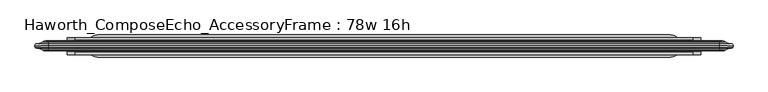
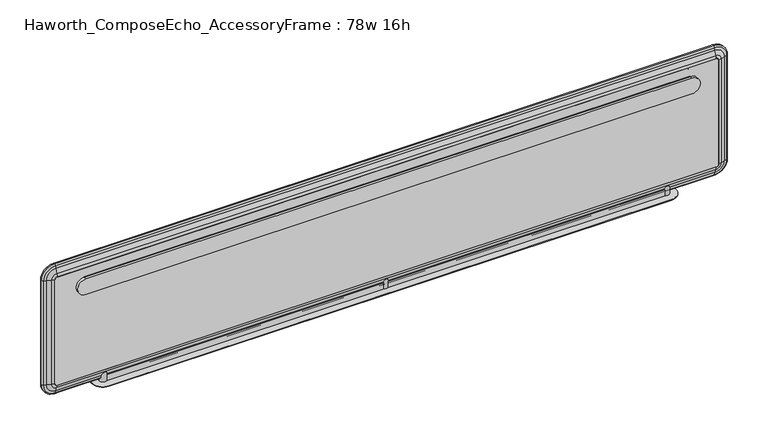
"""IFC4 building model written with IfcOpenShell, lengths in millimetres: furniture geometry, Haworth_ComposeEcho_AccessoryFrame : 78w 16h."""

from ifc_helpers import new_model, si_unit, point, frame, frame_2d, origin, place, context, project, spatial, polyline, circle_curve, ellipse_curve, trimmed, segment, composite_curve, outline, extrude, source, transform, mapped, element, save
from ifc_brep_helpers import plane_surface, cylinder_surface, revolved_surface, advanced_brep


def haworth_composeecho_accessoryframe_78w_16h_9558f845(model_context):
    return source(origin(), model_context, "Body", "SolidModel", [
        extrude(outline(composite_curve([segment(trimmed(circle_curve(frame_2d((1432.9130983, -950.0759879)), 6.3337219), [point((1439.2468202, -950.0759879))], [point((1432.9130983, -956.4097098))], False, "CARTESIAN"), True, "CONTINUOUS"), segment(polyline([(1432.9130983, -956.4097098), (1115.0680007, -956.4097098)]), True, "CONTINUOUS"), segment(trimmed(circle_curve(frame_2d((1115.0680007, -950.0597098)), 6.35), [point((1115.0680007, -956.4097098))], [point((1108.7180007, -950.0597098))], False, "CARTESIAN"), True, "CONTINUOUS"), segment(polyline([(1108.7180007, -950.0597098), (1108.7180007, 954.9402902)]), True, "CONTINUOUS"), segment(trimmed(circle_curve(frame_2d((1115.0680007, 954.9402902)), 6.35), [point((1108.7180007, 954.9402902))], [point((1115.0680007, 961.2902902))], False, "CARTESIAN"), True, "CONTINUOUS"), segment(polyline([(1115.0680007, 961.2902902), (1432.9130983, 961.2902902)]), True, "CONTINUOUS"), segment(trimmed(circle_curve(frame_2d((1432.9130983, 954.9565682)), 6.3337219), [point((1432.9130983, 961.2902902))], [point((1439.2468202, 954.9565682))], False, "CARTESIAN"), True, "CONTINUOUS"), segment(polyline([(1439.2468202, 954.9565682), (1439.2468202, -950.0759879)]), True, "CONTINUOUS")], self_intersect=False)), frame((0.0, -14.1233272, 0.0), z_axis=(0.0, 1.0, 0.0), x_axis=(0.0, 0.0, 1.0)), (0.0, 0.0, 1.0), 28.3652874),
        advanced_brep(
        [(990.1741083, -5.6620988, 1432.9130983), (992.695037, 0.0, 1432.9130983), (954.9563745, 0.0, 1470.6517609), (954.9563745, -5.6620988, 1468.1308321), (982.7453032, -6.4813873, 1432.9130983), (954.9563745, -6.4813873, 1460.7020271), (990.1741083, -5.6620988, 1115.0680007), (992.695037, 0.0, 1115.0680007), (982.7453032, -6.4813873, 1115.0680007), (954.9400964, -5.6620988, 1079.8339888), (954.9400964, 0.0, 1077.31306), (954.9400964, -6.4813873, 1087.2627938), (-950.0597098, -5.6620988, 1079.8339888), (-950.0597098, 0.0, 1077.31306), (-950.0597098, -6.4813873, 1087.2627938), (-985.2937217, -5.6620988, 1115.0680007), (-987.8146505, 0.0, 1115.0680007), (-977.8649167, -6.4813873, 1115.0680007), (-985.2937217, -5.6620988, 1432.9130983), (-987.8146505, 0.0, 1432.9130983), (-977.8649167, -6.4813873, 1432.9130983), (-950.0759879, -5.6620988, 1468.1308321), (-950.0759879, 0.0, 1470.6517609), (-950.0759879, -6.4813873, 1460.7020271), (-956.4097098, 0.0, 1115.0680007), (-950.0597098, 0.0, 1108.7180007), (954.9400964, 0.0, 1108.7180007), (961.2900964, 0.0, 1115.0680007), (961.2900964, 0.0, 1432.9130983), (954.9563745, 0.0, 1439.2468202), (-950.0759879, 0.0, 1439.2468202), (-956.4097098, 0.0, 1432.9130983), (961.2900964, -14.1233272, 1432.9130983), (954.9563745, -14.1233272, 1439.2468202), (969.3685761, -12.0676743, 1432.9130983), (954.9563745, -12.0676743, 1447.3253), (961.2900964, -14.1233272, 1115.0680007), (969.3685761, -12.0676743, 1115.0680007), (954.9400964, -14.1233272, 1108.7180007), (954.9400964, -12.0676743, 1100.6395209), (-950.0597098, -14.1233272, 1108.7180007), (-950.0597098, -12.0676743, 1100.6395209), (-956.4097098, -14.1233272, 1115.0680007), (-964.4881896, -12.0676743, 1115.0680007), (-956.4097098, -14.1233272, 1432.9130983), (-964.4881896, -12.0676743, 1432.9130983), (-950.0759879, -14.1233272, 1439.2468202), (-950.0759879, -12.0676743, 1447.3253)],
        [
            (0, 1, circle_curve(frame((988.7467041, -1.6343332, 1432.9130983), z_axis=(0.0, 0.0, 1.0), x_axis=(-1.0, 0.0, 0.0)), 4.2732164)),
            (1, 2, circle_curve(frame((954.9563745, 0.0, 1432.9130983), z_axis=(0.0, -1.0, 0.0), x_axis=(0.0, 0.0, 1.0)), 37.7386626)),
            (2, 3, circle_curve(frame((954.9563745, -1.6343332, 1466.7034279), z_axis=(1.0, 0.0, 0.0), x_axis=(0.0, 0.0, -1.0)), 4.2732164)),
            (3, 0, circle_curve(frame((954.9563745, -5.6620988, 1432.9130983), z_axis=(0.0, 1.0, 0.0), x_axis=(0.0, 0.0, 1.0)), 35.2177338)),
            (4, 0),
            (3, 5),
            (5, 4, circle_curve(frame((954.9563745, -6.4813873, 1432.9130983), z_axis=(0.0, 1.0, 0.0), x_axis=(0.0, 0.0, 1.0)), 27.7889288)),
            (0, 6),
            (6, 7, circle_curve(frame((988.7467041, -1.6343332, 1115.0680007), z_axis=(0.0, 0.0, 1.0), x_axis=(-1.0, 0.0, 0.0)), 4.2732164)),
            (7, 1),
            (4, 8),
            (8, 6),
            (9, 10, circle_curve(frame((954.9400964, -1.6343332, 1081.261393), z_axis=(1.0, 0.0, 0.0), x_axis=(0.0, 0.0, 1.0)), 4.2732164)),
            (10, 7, circle_curve(frame((954.9400964, 0.0, 1115.0680007), z_axis=(0.0, -1.0, 0.0), x_axis=(1.0, 0.0, 0.0)), 37.7549407)),
            (6, 9, circle_curve(frame((954.9400964, -5.6620988, 1115.0680007), z_axis=(0.0, 1.0, 0.0), x_axis=(1.0, 0.0, 0.0)), 35.2340119)),
            (11, 9),
            (8, 11, circle_curve(frame((954.9400964, -6.4813873, 1115.0680007), z_axis=(0.0, 1.0, 0.0), x_axis=(1.0, 0.0, 0.0)), 27.8052069)),
            (9, 12),
            (12, 13, circle_curve(frame((-950.0597098, -1.6343332, 1081.261393), z_axis=(1.0, 0.0, 0.0), x_axis=(0.0, 0.0, 1.0)), 4.2732164)),
            (13, 10),
            (11, 14),
            (14, 12),
            (15, 16, circle_curve(frame((-983.8663175, -1.6343332, 1115.0680007), z_axis=(0.0, 0.0, -1.0), x_axis=(1.0, 0.0, 0.0)), 4.2732164)),
            (16, 13, circle_curve(frame((-950.0597098, 0.0, 1115.0680007), z_axis=(0.0, -1.0, 0.0), x_axis=(0.0, 0.0, -1.0)), 37.7549407)),
            (12, 15, circle_curve(frame((-950.0597098, -5.6620988, 1115.0680007), z_axis=(0.0, 1.0, 0.0), x_axis=(0.0, 0.0, -1.0)), 35.2340119)),
            (17, 15),
            (14, 17, circle_curve(frame((-950.0597098, -6.4813873, 1115.0680007), z_axis=(0.0, 1.0, 0.0), x_axis=(0.0, 0.0, -1.0)), 27.8052069)),
            (15, 18),
            (18, 19, circle_curve(frame((-983.8663175, -1.6343332, 1432.9130983), z_axis=(0.0, 0.0, -1.0), x_axis=(1.0, 0.0, 0.0)), 4.2732164)),
            (19, 16),
            (17, 20),
            (20, 18),
            (21, 22, circle_curve(frame((-950.0759879, -1.6343332, 1466.7034279), z_axis=(-1.0, 0.0, 0.0), x_axis=(0.0, 0.0, -1.0)), 4.2732164)),
            (22, 19, circle_curve(frame((-950.0759879, 0.0, 1432.9130983), z_axis=(0.0, -1.0, 0.0), x_axis=(-1.0, 0.0, 0.0)), 37.7386626)),
            (18, 21, circle_curve(frame((-950.0759879, -5.6620988, 1432.9130983), z_axis=(0.0, 1.0, 0.0), x_axis=(-1.0, 0.0, 0.0)), 35.2177338)),
            (23, 21),
            (20, 23, circle_curve(frame((-950.0759879, -6.4813873, 1432.9130983), z_axis=(0.0, 1.0, 0.0), x_axis=(-1.0, 0.0, 0.0)), 27.7889288)),
            (21, 3),
            (2, 22),
            (24, 25, circle_curve(frame((-950.0597098, 0.0, 1115.0680007), z_axis=(0.0, -1.0, 0.0), x_axis=(0.0, 0.0, -1.0)), 6.35)),
            (25, 26),
            (26, 27, circle_curve(frame((954.9400964, 0.0, 1115.0680007), z_axis=(0.0, -1.0, 0.0), x_axis=(1.0, 0.0, 0.0)), 6.35)),
            (27, 28),
            (28, 29, circle_curve(frame((954.9563745, 0.0, 1432.9130983), z_axis=(0.0, -1.0, 0.0), x_axis=(0.0, 0.0, 1.0)), 6.3337219)),
            (29, 30),
            (30, 31, circle_curve(frame((-950.0759879, 0.0, 1432.9130983), z_axis=(0.0, -1.0, 0.0), x_axis=(-1.0, 0.0, 0.0)), 6.3337219)),
            (31, 24),
            (23, 5),
            (28, 32),
            (32, 33, circle_curve(frame((954.9563745, -14.1233272, 1432.9130983), z_axis=(0.0, -1.0, 0.0), x_axis=(0.0, 0.0, 1.0)), 6.3337219)),
            (33, 29),
            (32, 34, circle_curve(frame((960.0042192, 7.831597, 1432.9130983), z_axis=(0.0, 0.0, 1.0), x_axis=(-1.0, 0.0, 0.0)), 21.9925482)),
            (34, 35, circle_curve(frame((954.9563745, -12.0676743, 1432.9130983), z_axis=(0.0, -1.0, 0.0), x_axis=(0.0, 0.0, 1.0)), 14.4122017)),
            (35, 33, circle_curve(frame((954.9563745, 7.831597, 1437.960943), z_axis=(1.0, 0.0, 0.0), x_axis=(0.0, 0.0, -1.0)), 21.9925482)),
            (34, 4, circle_curve(frame((1039.1438047, -160.3401291, 1432.9130983), z_axis=(0.0, 0.0, -1.0), x_axis=(-1.0, 0.0, 0.0)), 163.8697757)),
            (5, 35, circle_curve(frame((954.9563745, -160.3401291, 1517.1005285), z_axis=(-1.0, 0.0, 0.0), x_axis=(0.0, 0.0, -1.0)), 163.8697757)),
            (27, 36),
            (36, 32),
            (36, 37, circle_curve(frame((960.0042192, 7.831597, 1115.0680007), z_axis=(0.0, 0.0, 1.0), x_axis=(-1.0, 0.0, 0.0)), 21.9925482)),
            (37, 34),
            (37, 8, circle_curve(frame((1039.1438047, -160.3401291, 1115.0680007), z_axis=(0.0, 0.0, -1.0), x_axis=(-1.0, 0.0, 0.0)), 163.8697757)),
            (26, 38),
            (38, 36, circle_curve(frame((954.9400964, -14.1233272, 1115.0680007), z_axis=(0.0, -1.0, 0.0), x_axis=(1.0, 0.0, 0.0)), 6.35)),
            (38, 39, circle_curve(frame((954.9400964, 7.831597, 1110.0038779), z_axis=(1.0, 0.0, 0.0), x_axis=(0.0, 0.0, 1.0)), 21.9925482)),
            (39, 37, circle_curve(frame((954.9400964, -12.0676743, 1115.0680007), z_axis=(0.0, -1.0, 0.0), x_axis=(1.0, 0.0, 0.0)), 14.4284798)),
            (39, 11, circle_curve(frame((954.9400964, -160.3401291, 1030.8642924), z_axis=(-1.0, 0.0, 0.0), x_axis=(0.0, 0.0, 1.0)), 163.8697757)),
            (25, 40),
            (40, 38),
            (40, 41, circle_curve(frame((-950.0597098, 7.831597, 1110.0038779), z_axis=(1.0, 0.0, 0.0), x_axis=(0.0, 0.0, 1.0)), 21.9925482)),
            (41, 39),
            (41, 14, circle_curve(frame((-950.0597098, -160.3401291, 1030.8642924), z_axis=(-1.0, 0.0, 0.0), x_axis=(0.0, 0.0, 1.0)), 163.8697757)),
            (24, 42),
            (42, 40, circle_curve(frame((-950.0597098, -14.1233272, 1115.0680007), z_axis=(0.0, -1.0, 0.0), x_axis=(0.0, 0.0, -1.0)), 6.35)),
            (42, 43, circle_curve(frame((-955.1238326, 7.831597, 1115.0680007), z_axis=(0.0, 0.0, -1.0), x_axis=(1.0, 0.0, 0.0)), 21.9925482)),
            (43, 41, circle_curve(frame((-950.0597098, -12.0676743, 1115.0680007), z_axis=(0.0, -1.0, 0.0), x_axis=(0.0, 0.0, -1.0)), 14.4284798)),
            (43, 17, circle_curve(frame((-1034.2634181, -160.3401291, 1115.0680007), z_axis=(0.0, 0.0, 1.0), x_axis=(1.0, 0.0, 0.0)), 163.8697757)),
            (31, 44),
            (44, 42),
            (44, 45, circle_curve(frame((-955.1238326, 7.831597, 1432.9130983), z_axis=(0.0, 0.0, -1.0), x_axis=(1.0, 0.0, 0.0)), 21.9925482)),
            (45, 43),
            (45, 20, circle_curve(frame((-1034.2634181, -160.3401291, 1432.9130983), z_axis=(0.0, 0.0, 1.0), x_axis=(1.0, 0.0, 0.0)), 163.8697757)),
            (30, 46),
            (46, 44, circle_curve(frame((-950.0759879, -14.1233272, 1432.9130983), z_axis=(0.0, -1.0, 0.0), x_axis=(-1.0, 0.0, 0.0)), 6.3337219)),
            (46, 47, circle_curve(frame((-950.0759879, 7.831597, 1437.960943), z_axis=(-1.0, 0.0, 0.0), x_axis=(0.0, 0.0, -1.0)), 21.9925482)),
            (47, 45, circle_curve(frame((-950.0759879, -12.0676743, 1432.9130983), z_axis=(0.0, -1.0, 0.0), x_axis=(-1.0, 0.0, 0.0)), 14.4122017)),
            (47, 23, circle_curve(frame((-950.0759879, -160.3401291, 1517.1005285), z_axis=(1.0, 0.0, 0.0), x_axis=(0.0, 0.0, -1.0)), 163.8697757)),
            (33, 46),
            (35, 47),
        ],
        [
            revolved_surface(trimmed(ellipse_curve(frame((954.9563745, -1.6343332, 1466.7034279), z_axis=(1.0, 0.0, 0.0), x_axis=(0.0, 0.0, -1.0)), 4.2732164, 4.2732164), [point((954.9563745, 0.0, 1470.6517609))], [point((954.9563745, -5.6620988, 1468.1308321))], True, "CARTESIAN"), (954.9563745, 0.0, 1432.9130983), (0.0, -1.0, 0.0)),
            revolved_surface(polyline([(954.9563745, -5.6620988, 1468.1308321), (954.9563745, -6.4813873, 1460.7020271)]), (954.9563745, 0.0, 1432.9130983), (0.0, -1.0, 0.0)),
            cylinder_surface(frame((988.7467041, -1.6343332, 1432.9130983), z_axis=(0.0, 0.0, 1.0), x_axis=(-1.0, 0.0, 0.0)), 4.2732164),
            plane_surface(frame((990.1741083, -5.6620988, 1432.9130983), z_axis=(0.10962074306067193, -0.9939734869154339, 0.0), x_axis=(0.0, 0.0, -1.0))),
            revolved_surface(trimmed(ellipse_curve(frame((988.7467041, -1.6343332, 1115.0680007), z_axis=(0.0, 0.0, -1.0), x_axis=(-1.0, 0.0, 0.0)), 4.2732164, 4.2732164), [point((992.695037, 0.0, 1115.0680007))], [point((990.1741083, -5.6620988, 1115.0680007))], True, "CARTESIAN"), (954.9400964, 0.0, 1115.0680007), (0.0, -1.0, 0.0)),
            revolved_surface(polyline([(990.1741083, -5.6620988, 1115.0680007), (982.7453032, -6.4813873, 1115.0680007)]), (954.9400964, 0.0, 1115.0680007), (0.0, -1.0, 0.0)),
            cylinder_surface(frame((954.9400964, -1.6343332, 1081.261393), z_axis=(1.0, 0.0, 0.0), x_axis=(0.0, 0.0, 1.0)), 4.2732164),
            plane_surface(frame((954.9400964, -5.6620988, 1079.8339888), z_axis=(0.0, -0.9939734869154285, -0.109620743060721), x_axis=(-1.0, 0.0, 0.0))),
            revolved_surface(trimmed(ellipse_curve(frame((-950.0597098, -1.6343332, 1081.261393), z_axis=(-1.0, 0.0, 0.0), x_axis=(0.0, 0.0, 1.0)), 4.2732164, 4.2732164), [point((-950.0597098, 0.0, 1077.31306))], [point((-950.0597098, -5.6620988, 1079.8339888))], True, "CARTESIAN"), (-950.0597098, 0.0, 1115.0680007), (0.0, -1.0, 0.0)),
            revolved_surface(polyline([(-950.0597098, -5.6620988, 1079.8339888), (-950.0597098, -6.4813873, 1087.2627938)]), (-950.0597098, 0.0, 1115.0680007), (0.0, -1.0, 0.0)),
            cylinder_surface(frame((-983.8663175, -1.6343332, 1115.0680007), z_axis=(0.0, 0.0, -1.0), x_axis=(1.0, 0.0, 0.0)), 4.2732164),
            plane_surface(frame((-985.2937217, -5.6620988, 1115.0680007), z_axis=(-0.10962074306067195, -0.993973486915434, 0.0), x_axis=(0.0, 0.0, 1.0))),
            revolved_surface(trimmed(ellipse_curve(frame((-983.8663175, -1.6343332, 1432.9130983), z_axis=(0.0, 0.0, 1.0), x_axis=(1.0, 0.0, 0.0)), 4.2732164, 4.2732164), [point((-987.8146505, 0.0, 1432.9130983))], [point((-985.2937217, -5.6620988, 1432.9130983))], True, "CARTESIAN"), (-950.0759879, 0.0, 1432.9130983), (0.0, -1.0, 0.0)),
            revolved_surface(polyline([(-985.2937217, -5.6620988, 1432.9130983), (-977.8649167, -6.4813873, 1432.9130983)]), (-950.0759879, 0.0, 1432.9130983), (0.0, -1.0, 0.0)),
            cylinder_surface(frame((-950.0759879, -1.6343332, 1466.7034279), z_axis=(-1.0, 0.0, 0.0), x_axis=(0.0, 0.0, -1.0)), 4.2732164),
            plane_surface(frame((-950.0759879, 0.0, 1439.2468202), z_axis=(0.0, 1.0, 0.0), x_axis=(1.0, 0.0, 0.0))),
            plane_surface(frame((-950.0759879, -5.6620988, 1468.1308321), z_axis=(0.0, -0.9939734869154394, 0.10962074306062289), x_axis=(1.0, 0.0, 0.0))),
            revolved_surface(polyline([(954.9563745, -14.1233272, 1439.2468202), (954.9563745, 0.0, 1439.2468202)]), (954.9563745, 0.0, 1432.9130983), (0.0, -1.0, 0.0)),
            revolved_surface(trimmed(ellipse_curve(frame((954.9563745, 7.831597, 1437.960943), z_axis=(1.0, 0.0, 0.0), x_axis=(0.0, 0.0, -1.0)), 21.9925482, 21.9925482), [point((954.9563745, -12.0676743, 1447.3253))], [point((954.9563745, -14.1233272, 1439.2468202))], True, "CARTESIAN"), (954.9563745, 0.0, 1432.9130983), (0.0, -1.0, 0.0)),
            revolved_surface(trimmed(ellipse_curve(frame((954.9563745, -160.3401291, 1517.1005285), z_axis=(-1.0, 0.0, 0.0), x_axis=(0.0, 0.0, -1.0)), 163.8697757, 163.8697757), [point((954.9563745, -6.4813873, 1460.7020271))], [point((954.9563745, -12.0676743, 1447.3253))], True, "CARTESIAN"), (954.9563745, 0.0, 1432.9130983), (0.0, -1.0, 0.0)),
            plane_surface(frame((961.2900964, -14.1233272, 1432.9130983), z_axis=(-1.0, 0.0, 0.0), x_axis=(0.0, 0.0, -1.0))),
            cylinder_surface(frame((960.0042192, 7.831597, 1432.9130983), z_axis=(0.0, 0.0, 1.0), x_axis=(-1.0, 0.0, 0.0)), 21.9925482),
            revolved_surface(polyline([(875.2740289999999, -160.3401291, 1115.0680007), (875.2740289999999, -160.3401291, 1432.9130983)]), (1039.1438047, -160.3401291, 1432.9130983), (0.0, 0.0, -1.0)),
            revolved_surface(polyline([(961.2900964, -14.1233272, 1115.0680007), (961.2900964, 0.0, 1115.0680007)]), (954.9400964, 0.0, 1115.0680007), (0.0, -1.0, 0.0)),
            revolved_surface(trimmed(ellipse_curve(frame((960.0042192, 7.831597, 1115.0680007), z_axis=(0.0, 0.0, -1.0), x_axis=(-1.0, 0.0, 0.0)), 21.9925482, 21.9925482), [point((969.3685761, -12.0676743, 1115.0680007))], [point((961.2900964, -14.1233272, 1115.0680007))], True, "CARTESIAN"), (954.9400964, 0.0, 1115.0680007), (0.0, -1.0, 0.0)),
            revolved_surface(trimmed(ellipse_curve(frame((1039.1438047, -160.3401291, 1115.0680007), z_axis=(0.0, 0.0, 1.0), x_axis=(-1.0, 0.0, 0.0)), 163.8697757, 163.8697757), [point((982.7453032, -6.4813873, 1115.0680007))], [point((969.3685761, -12.0676743, 1115.0680007))], True, "CARTESIAN"), (954.9400964, 0.0, 1115.0680007), (0.0, -1.0, 0.0)),
            plane_surface(frame((954.9400964, -14.1233272, 1108.7180007), z_axis=(0.0, 0.0, 1.0), x_axis=(-1.0, 0.0, 0.0))),
            cylinder_surface(frame((954.9400964, 7.831597, 1110.0038779), z_axis=(1.0, 0.0, 0.0), x_axis=(0.0, 0.0, 1.0)), 21.9925482),
            revolved_surface(polyline([(-950.0597098, -160.3401291, 1194.7340681), (954.9400964, -160.3401291, 1194.7340681)]), (954.9400964, -160.3401291, 1030.8642924), (-1.0, 0.0, 0.0)),
            revolved_surface(polyline([(-950.0597098, -14.1233272, 1108.7180007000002), (-950.0597098, 0.0, 1108.7180007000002)]), (-950.0597098, 0.0, 1115.0680007), (0.0, -1.0, 0.0)),
            revolved_surface(trimmed(ellipse_curve(frame((-950.0597098, 7.831597, 1110.0038779), z_axis=(-1.0, 0.0, 0.0), x_axis=(0.0, 0.0, 1.0)), 21.9925482, 21.9925482), [point((-950.0597098, -12.0676743, 1100.6395209))], [point((-950.0597098, -14.1233272, 1108.7180007))], True, "CARTESIAN"), (-950.0597098, 0.0, 1115.0680007), (0.0, -1.0, 0.0)),
            revolved_surface(trimmed(ellipse_curve(frame((-950.0597098, -160.3401291, 1030.8642924), z_axis=(1.0, 0.0, 0.0), x_axis=(0.0, 0.0, 1.0)), 163.8697757, 163.8697757), [point((-950.0597098, -6.4813873, 1087.2627938))], [point((-950.0597098, -12.0676743, 1100.6395209))], True, "CARTESIAN"), (-950.0597098, 0.0, 1115.0680007), (0.0, -1.0, 0.0)),
            plane_surface(frame((-956.4097098, -14.1233272, 1115.0680007), z_axis=(1.0, 0.0, 0.0), x_axis=(0.0, 0.0, 1.0))),
            cylinder_surface(frame((-955.1238326, 7.831597, 1115.0680007), z_axis=(0.0, 0.0, -1.0), x_axis=(1.0, 0.0, 0.0)), 21.9925482),
            revolved_surface(polyline([(-870.3936424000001, -160.3401291, 1432.9130983), (-870.3936424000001, -160.3401291, 1115.0680007)]), (-1034.2634181, -160.3401291, 1115.0680007), (0.0, 0.0, 1.0)),
            revolved_surface(polyline([(-956.4097098, -14.1233272, 1432.9130983), (-956.4097098, 0.0, 1432.9130983)]), (-950.0759879, 0.0, 1432.9130983), (0.0, -1.0, 0.0)),
            revolved_surface(trimmed(ellipse_curve(frame((-955.1238326, 7.831597, 1432.9130983), z_axis=(0.0, 0.0, 1.0), x_axis=(1.0, 0.0, 0.0)), 21.9925482, 21.9925482), [point((-964.4881896, -12.0676743, 1432.9130983))], [point((-956.4097098, -14.1233272, 1432.9130983))], True, "CARTESIAN"), (-950.0759879, 0.0, 1432.9130983), (0.0, -1.0, 0.0)),
            revolved_surface(trimmed(ellipse_curve(frame((-1034.2634181, -160.3401291, 1432.9130983), z_axis=(0.0, 0.0, -1.0), x_axis=(1.0, 0.0, 0.0)), 163.8697757, 163.8697757), [point((-977.8649167, -6.4813873, 1432.9130983))], [point((-964.4881896, -12.0676743, 1432.9130983))], True, "CARTESIAN"), (-950.0759879, 0.0, 1432.9130983), (0.0, -1.0, 0.0)),
            plane_surface(frame((-950.0759879, -14.1233272, 1439.2468202), z_axis=(0.0, 0.0, -1.0), x_axis=(1.0, 0.0, 0.0))),
            cylinder_surface(frame((-950.0759879, 7.831597, 1437.960943), z_axis=(-1.0, 0.0, 0.0), x_axis=(0.0, 0.0, -1.0)), 21.9925482),
            revolved_surface(polyline([(954.9563745, -160.3401291, 1353.2307528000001), (-950.0759879, -160.3401291, 1353.2307528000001)]), (-950.0759879, -160.3401291, 1517.1005285), (1.0, 0.0, 0.0)),
        ],
        [
            (0, [[1, 2, 3, 4]]),
            (1, [[5, -4, 6, 7]]),
            (2, [[8, 9, 10, -1]]),
            (3, [[11, 12, -8, -5]]),
            (4, [[13, 14, -9, 15]]),
            (5, [[16, -15, -12, 17]]),
            (6, [[18, 19, 20, -13]]),
            (7, [[21, 22, -18, -16]]),
            (8, [[23, 24, -19, 25]]),
            (9, [[26, -25, -22, 27]]),
            (10, [[28, 29, 30, -23]]),
            (11, [[31, 32, -28, -26]]),
            (12, [[33, 34, -29, 35]]),
            (13, [[36, -35, -32, 37]]),
            (14, [[38, -3, 39, -33]]),
            (15, [[-2, -10, -14, -20, -24, -30, -34, -39], [40, 41, 42, 43, 44, 45, 46, 47]]),
            (16, [[48, -6, -38, -36]]),
            (17, [[49, 50, 51, -44]]),
            (18, [[52, 53, 54, -50]]),
            (19, [[55, -7, 56, -53]]),
            (20, [[-43, 57, 58, -49]]),
            (21, [[-58, 59, 60, -52]]),
            (22, [[-60, 61, -11, -55]]),
            (23, [[62, 63, -57, -42]]),
            (24, [[64, 65, -59, -63]]),
            (25, [[66, -17, -61, -65]]),
            (26, [[-41, 67, 68, -62]]),
            (27, [[-68, 69, 70, -64]]),
            (28, [[-70, 71, -21, -66]]),
            (29, [[72, 73, -67, -40]]),
            (30, [[74, 75, -69, -73]]),
            (31, [[76, -27, -71, -75]]),
            (32, [[-47, 77, 78, -72]]),
            (33, [[-78, 79, 80, -74]]),
            (34, [[-80, 81, -31, -76]]),
            (35, [[82, 83, -77, -46]]),
            (36, [[84, 85, -79, -83]]),
            (37, [[86, -37, -81, -85]]),
            (38, [[-45, -51, 87, -82]]),
            (39, [[-87, -54, 88, -84]]),
            (40, [[-88, -56, -48, -86]]),
        ],
    ),
        advanced_brep(
        [(992.695037, 0.0, 1432.9130983), (990.1741083, 5.6620988, 1432.9130983), (954.9563745, 5.6620988, 1468.1308321), (954.9563745, 0.0, 1470.6517609), (982.7453032, 6.4813873, 1432.9130983), (954.9563745, 6.4813873, 1460.7020271), (992.695037, 0.0, 1115.0680007), (990.1741083, 5.6620988, 1115.0680007), (982.7453032, 6.4813873, 1115.0680007), (954.9400964, 0.0, 1077.31306), (954.9400964, 5.6620988, 1079.8339888), (954.9400964, 6.4813873, 1087.2627938), (-950.0597098, 0.0, 1077.31306), (-950.0597098, 5.6620988, 1079.8339888), (-950.0597098, 6.4813873, 1087.2627938), (-987.8146505, 0.0, 1115.0680007), (-985.2937217, 5.6620988, 1115.0680007), (-977.8649167, 6.4813873, 1115.0680007), (-987.8146505, 0.0, 1432.9130983), (-985.2937217, 5.6620988, 1432.9130983), (-977.8649167, 6.4813873, 1432.9130983), (-950.0759879, 0.0, 1470.6517609), (-950.0759879, 5.6620988, 1468.1308321), (-950.0759879, 6.4813873, 1460.7020271), (954.9563745, 0.0, 1439.2468202), (961.2900964, 0.0, 1432.9130983), (961.2900964, 0.0, 1115.0680007), (954.9400964, 0.0, 1108.7180007), (-950.0597098, 0.0, 1108.7180007), (-956.4097098, 0.0, 1115.0680007), (-956.4097098, 0.0, 1432.9130983), (-950.0759879, 0.0, 1439.2468202), (961.2900964, 14.1233272, 1432.9130983), (954.9563745, 14.1233272, 1439.2468202), (969.3685761, 12.0676743, 1432.9130983), (954.9563745, 12.0676743, 1447.3253), (961.2900964, 14.1233272, 1115.0680007), (969.3685761, 12.0676743, 1115.0680007), (954.9400964, 14.1233272, 1108.7180007), (954.9400964, 12.0676743, 1100.6395209), (-950.0597098, 14.1233272, 1108.7180007), (-950.0597098, 12.0676743, 1100.6395209), (-956.4097098, 14.1233272, 1115.0680007), (-964.4881896, 12.0676743, 1115.0680007), (-956.4097098, 14.1233272, 1432.9130983), (-964.4881896, 12.0676743, 1432.9130983), (-950.0759879, 14.1233272, 1439.2468202), (-950.0759879, 12.0676743, 1447.3253)],
        [
            (0, 1, circle_curve(frame((988.7467041, 1.6343332, 1432.9130983), z_axis=(0.0, 0.0, 1.0), x_axis=(1.0, 0.0, 0.0)), 4.2732164)),
            (1, 2, circle_curve(frame((954.9563745, 5.6620988, 1432.9130983), z_axis=(0.0, -1.0, 0.0), x_axis=(0.0, 0.0, 1.0)), 35.2177338)),
            (2, 3, circle_curve(frame((954.9563745, 1.6343332, 1466.7034279), z_axis=(1.0, 0.0, 0.0), x_axis=(0.0, 0.0, 1.0)), 4.2732164)),
            (3, 0, circle_curve(frame((954.9563745, 0.0, 1432.9130983), z_axis=(0.0, 1.0, 0.0), x_axis=(0.0, 0.0, 1.0)), 37.7386626)),
            (1, 4),
            (4, 5, circle_curve(frame((954.9563745, 6.4813873, 1432.9130983), z_axis=(0.0, -1.0, 0.0), x_axis=(0.0, 0.0, 1.0)), 27.7889288)),
            (5, 2),
            (0, 6),
            (6, 7, circle_curve(frame((988.7467041, 1.6343332, 1115.0680007), z_axis=(0.0, 0.0, 1.0), x_axis=(1.0, 0.0, 0.0)), 4.2732164)),
            (7, 1),
            (7, 8),
            (8, 4),
            (9, 10, circle_curve(frame((954.9400964, 1.6343332, 1081.261393), z_axis=(1.0, 0.0, 0.0), x_axis=(0.0, 0.0, -1.0)), 4.2732164)),
            (10, 7, circle_curve(frame((954.9400964, 5.6620988, 1115.0680007), z_axis=(0.0, -1.0, 0.0), x_axis=(1.0, 0.0, 0.0)), 35.2340119)),
            (6, 9, circle_curve(frame((954.9400964, 0.0, 1115.0680007), z_axis=(0.0, 1.0, 0.0), x_axis=(1.0, 0.0, 0.0)), 37.7549407)),
            (10, 11),
            (11, 8, circle_curve(frame((954.9400964, 6.4813873, 1115.0680007), z_axis=(0.0, -1.0, 0.0), x_axis=(1.0, 0.0, 0.0)), 27.8052069)),
            (9, 12),
            (12, 13, circle_curve(frame((-950.0597098, 1.6343332, 1081.261393), z_axis=(1.0, 0.0, 0.0), x_axis=(0.0, 0.0, -1.0)), 4.2732164)),
            (13, 10),
            (13, 14),
            (14, 11),
            (15, 16, circle_curve(frame((-983.8663175, 1.6343332, 1115.0680007), z_axis=(0.0, 0.0, -1.0), x_axis=(-1.0, 0.0, 0.0)), 4.2732164)),
            (16, 13, circle_curve(frame((-950.0597098, 5.6620988, 1115.0680007), z_axis=(0.0, -1.0, 0.0), x_axis=(0.0, 0.0, -1.0)), 35.2340119)),
            (12, 15, circle_curve(frame((-950.0597098, 0.0, 1115.0680007), z_axis=(0.0, 1.0, 0.0), x_axis=(0.0, 0.0, -1.0)), 37.7549407)),
            (16, 17),
            (17, 14, circle_curve(frame((-950.0597098, 6.4813873, 1115.0680007), z_axis=(0.0, -1.0, 0.0), x_axis=(0.0, 0.0, -1.0)), 27.8052069)),
            (15, 18),
            (18, 19, circle_curve(frame((-983.8663175, 1.6343332, 1432.9130983), z_axis=(0.0, 0.0, -1.0), x_axis=(-1.0, 0.0, 0.0)), 4.2732164)),
            (19, 16),
            (19, 20),
            (20, 17),
            (21, 22, circle_curve(frame((-950.0759879, 1.6343332, 1466.7034279), z_axis=(-1.0, 0.0, 0.0), x_axis=(0.0, 0.0, 1.0)), 4.2732164)),
            (22, 19, circle_curve(frame((-950.0759879, 5.6620988, 1432.9130983), z_axis=(0.0, -1.0, 0.0), x_axis=(-1.0, 0.0, 0.0)), 35.2177338)),
            (18, 21, circle_curve(frame((-950.0759879, 0.0, 1432.9130983), z_axis=(0.0, 1.0, 0.0), x_axis=(-1.0, 0.0, 0.0)), 37.7386626)),
            (22, 23),
            (23, 20, circle_curve(frame((-950.0759879, 6.4813873, 1432.9130983), z_axis=(0.0, -1.0, 0.0), x_axis=(-1.0, 0.0, 0.0)), 27.7889288)),
            (21, 3),
            (2, 22),
            (24, 25, circle_curve(frame((954.9563745, 0.0, 1432.9130983), z_axis=(0.0, 1.0, 0.0), x_axis=(0.0, 0.0, 1.0)), 6.3337219)),
            (25, 26),
            (26, 27, circle_curve(frame((954.9400964, 0.0, 1115.0680007), z_axis=(0.0, 1.0, 0.0), x_axis=(1.0, 0.0, 0.0)), 6.35)),
            (27, 28),
            (28, 29, circle_curve(frame((-950.0597098, 0.0, 1115.0680007), z_axis=(0.0, 1.0, 0.0), x_axis=(0.0, 0.0, -1.0)), 6.35)),
            (29, 30),
            (30, 31, circle_curve(frame((-950.0759879, 0.0, 1432.9130983), z_axis=(0.0, 1.0, 0.0), x_axis=(-1.0, 0.0, 0.0)), 6.3337219)),
            (31, 24),
            (5, 23),
            (32, 25),
            (24, 33),
            (33, 32, circle_curve(frame((954.9563745, 14.1233272, 1432.9130983), z_axis=(0.0, 1.0, 0.0), x_axis=(0.0, 0.0, 1.0)), 6.3337219)),
            (34, 32, circle_curve(frame((960.0042192, -7.831597, 1432.9130983), z_axis=(0.0, 0.0, 1.0), x_axis=(1.0, 0.0, 0.0)), 21.9925482)),
            (33, 35, circle_curve(frame((954.9563745, -7.831597, 1437.960943), z_axis=(1.0, 0.0, 0.0), x_axis=(0.0, 0.0, 1.0)), 21.9925482)),
            (35, 34, circle_curve(frame((954.9563745, 12.0676743, 1432.9130983), z_axis=(0.0, 1.0, 0.0), x_axis=(0.0, 0.0, 1.0)), 14.4122017)),
            (4, 34, circle_curve(frame((1039.1438047, 160.3401291, 1432.9130983), z_axis=(0.0, 0.0, -1.0), x_axis=(1.0, 0.0, 0.0)), 163.8697757)),
            (35, 5, circle_curve(frame((954.9563745, 160.3401291, 1517.1005285), z_axis=(-1.0, 0.0, 0.0), x_axis=(0.0, 0.0, 1.0)), 163.8697757)),
            (32, 36),
            (36, 26),
            (34, 37),
            (37, 36, circle_curve(frame((960.0042192, -7.831597, 1115.0680007), z_axis=(0.0, 0.0, 1.0), x_axis=(1.0, 0.0, 0.0)), 21.9925482)),
            (8, 37, circle_curve(frame((1039.1438047, 160.3401291, 1115.0680007), z_axis=(0.0, 0.0, -1.0), x_axis=(1.0, 0.0, 0.0)), 163.8697757)),
            (38, 27),
            (36, 38, circle_curve(frame((954.9400964, 14.1233272, 1115.0680007), z_axis=(0.0, 1.0, 0.0), x_axis=(1.0, 0.0, 0.0)), 6.35)),
            (39, 38, circle_curve(frame((954.9400964, -7.831597, 1110.0038779), z_axis=(1.0, 0.0, 0.0), x_axis=(0.0, 0.0, -1.0)), 21.9925482)),
            (37, 39, circle_curve(frame((954.9400964, 12.0676743, 1115.0680007), z_axis=(0.0, 1.0, 0.0), x_axis=(1.0, 0.0, 0.0)), 14.4284798)),
            (11, 39, circle_curve(frame((954.9400964, 160.3401291, 1030.8642924), z_axis=(-1.0, 0.0, 0.0), x_axis=(0.0, 0.0, -1.0)), 163.8697757)),
            (38, 40),
            (40, 28),
            (39, 41),
            (41, 40, circle_curve(frame((-950.0597098, -7.831597, 1110.0038779), z_axis=(1.0, 0.0, 0.0), x_axis=(0.0, 0.0, -1.0)), 21.9925482)),
            (14, 41, circle_curve(frame((-950.0597098, 160.3401291, 1030.8642924), z_axis=(-1.0, 0.0, 0.0), x_axis=(0.0, 0.0, -1.0)), 163.8697757)),
            (42, 29),
            (40, 42, circle_curve(frame((-950.0597098, 14.1233272, 1115.0680007), z_axis=(0.0, 1.0, 0.0), x_axis=(0.0, 0.0, -1.0)), 6.35)),
            (43, 42, circle_curve(frame((-955.1238326, -7.831597, 1115.0680007), z_axis=(0.0, 0.0, -1.0), x_axis=(-1.0, 0.0, 0.0)), 21.9925482)),
            (41, 43, circle_curve(frame((-950.0597098, 12.0676743, 1115.0680007), z_axis=(0.0, 1.0, 0.0), x_axis=(0.0, 0.0, -1.0)), 14.4284798)),
            (17, 43, circle_curve(frame((-1034.2634181, 160.3401291, 1115.0680007), z_axis=(0.0, 0.0, 1.0), x_axis=(-1.0, 0.0, 0.0)), 163.8697757)),
            (42, 44),
            (44, 30),
            (43, 45),
            (45, 44, circle_curve(frame((-955.1238326, -7.831597, 1432.9130983), z_axis=(0.0, 0.0, -1.0), x_axis=(-1.0, 0.0, 0.0)), 21.9925482)),
            (20, 45, circle_curve(frame((-1034.2634181, 160.3401291, 1432.9130983), z_axis=(0.0, 0.0, 1.0), x_axis=(-1.0, 0.0, 0.0)), 163.8697757)),
            (46, 31),
            (44, 46, circle_curve(frame((-950.0759879, 14.1233272, 1432.9130983), z_axis=(0.0, 1.0, 0.0), x_axis=(-1.0, 0.0, 0.0)), 6.3337219)),
            (47, 46, circle_curve(frame((-950.0759879, -7.831597, 1437.960943), z_axis=(-1.0, 0.0, 0.0), x_axis=(0.0, 0.0, 1.0)), 21.9925482)),
            (45, 47, circle_curve(frame((-950.0759879, 12.0676743, 1432.9130983), z_axis=(0.0, 1.0, 0.0), x_axis=(-1.0, 0.0, 0.0)), 14.4122017)),
            (23, 47, circle_curve(frame((-950.0759879, 160.3401291, 1517.1005285), z_axis=(1.0, 0.0, 0.0), x_axis=(0.0, 0.0, 1.0)), 163.8697757)),
            (46, 33),
            (47, 35),
        ],
        [
            revolved_surface(trimmed(ellipse_curve(frame((954.9563745, 1.6343332, 1466.7034279), z_axis=(1.0, 0.0, 0.0), x_axis=(0.0, 0.0, 1.0)), 4.2732164, 4.2732164), [point((954.9563745, 5.6620988, 1468.1308321))], [point((954.9563745, 0.0, 1470.6517609))], True, "CARTESIAN"), (954.9563745, 0.0, 1432.9130983), (0.0, -1.0, 0.0)),
            revolved_surface(polyline([(954.9563745, 6.4813873, 1460.7020271), (954.9563745, 5.6620988, 1468.1308321)]), (954.9563745, 0.0, 1432.9130983), (0.0, -1.0, 0.0)),
            cylinder_surface(frame((988.7467041, 1.6343332, 1432.9130983), z_axis=(0.0, 0.0, 1.0), x_axis=(1.0, 0.0, 0.0)), 4.2732164),
            plane_surface(frame((982.7453032, 6.4813873, 1432.9130983), z_axis=(0.10962074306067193, 0.9939734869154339, 0.0), x_axis=(0.0, 0.0, -1.0))),
            revolved_surface(trimmed(ellipse_curve(frame((988.7467041, 1.6343332, 1115.0680007), z_axis=(0.0, 0.0, -1.0), x_axis=(1.0, 0.0, 0.0)), 4.2732164, 4.2732164), [point((990.1741083, 5.6620988, 1115.0680007))], [point((992.695037, 0.0, 1115.0680007))], True, "CARTESIAN"), (954.9400964, 0.0, 1115.0680007), (0.0, -1.0, 0.0)),
            revolved_surface(polyline([(982.7453032, 6.4813873, 1115.0680007), (990.1741083, 5.6620988, 1115.0680007)]), (954.9400964, 0.0, 1115.0680007), (0.0, -1.0, 0.0)),
            cylinder_surface(frame((954.9400964, 1.6343332, 1081.261393), z_axis=(1.0, 0.0, 0.0), x_axis=(0.0, 0.0, -1.0)), 4.2732164),
            plane_surface(frame((954.9400964, 6.4813873, 1087.2627938), z_axis=(0.0, 0.9939734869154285, -0.109620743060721), x_axis=(-1.0, 0.0, 0.0))),
            revolved_surface(trimmed(ellipse_curve(frame((-950.0597098, 1.6343332, 1081.261393), z_axis=(-1.0, 0.0, 0.0), x_axis=(0.0, 0.0, -1.0)), 4.2732164, 4.2732164), [point((-950.0597098, 5.6620988, 1079.8339888))], [point((-950.0597098, 0.0, 1077.31306))], True, "CARTESIAN"), (-950.0597098, 0.0, 1115.0680007), (0.0, -1.0, 0.0)),
            revolved_surface(polyline([(-950.0597098, 6.4813873, 1087.2627938), (-950.0597098, 5.6620988, 1079.8339888)]), (-950.0597098, 0.0, 1115.0680007), (0.0, -1.0, 0.0)),
            cylinder_surface(frame((-983.8663175, 1.6343332, 1115.0680007), z_axis=(0.0, 0.0, -1.0), x_axis=(-1.0, 0.0, 0.0)), 4.2732164),
            plane_surface(frame((-977.8649167, 6.4813873, 1115.0680007), z_axis=(-0.10962074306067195, 0.993973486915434, 0.0), x_axis=(0.0, 0.0, 1.0))),
            revolved_surface(trimmed(ellipse_curve(frame((-983.8663175, 1.6343332, 1432.9130983), z_axis=(0.0, 0.0, 1.0), x_axis=(-1.0, 0.0, 0.0)), 4.2732164, 4.2732164), [point((-985.2937217, 5.6620988, 1432.9130983))], [point((-987.8146505, 0.0, 1432.9130983))], True, "CARTESIAN"), (-950.0759879, 0.0, 1432.9130983), (0.0, -1.0, 0.0)),
            revolved_surface(polyline([(-977.8649167, 6.4813873, 1432.9130983), (-985.2937217, 5.6620988, 1432.9130983)]), (-950.0759879, 0.0, 1432.9130983), (0.0, -1.0, 0.0)),
            cylinder_surface(frame((-950.0759879, 1.6343332, 1466.7034279), z_axis=(-1.0, 0.0, 0.0), x_axis=(0.0, 0.0, 1.0)), 4.2732164),
            plane_surface(frame((-950.0759879, 0.0, 1470.6517609), z_axis=(0.0, -1.0, 0.0), x_axis=(1.0, 0.0, 0.0))),
            plane_surface(frame((-950.0759879, 6.4813873, 1460.7020271), z_axis=(0.0, 0.9939734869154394, 0.10962074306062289), x_axis=(1.0, 0.0, 0.0))),
            revolved_surface(polyline([(954.9563745, 0.0, 1439.2468202), (954.9563745, 14.1233272, 1439.2468202)]), (954.9563745, 0.0, 1432.9130983), (0.0, -1.0, 0.0)),
            revolved_surface(trimmed(ellipse_curve(frame((954.9563745, -7.831597, 1437.960943), z_axis=(1.0, 0.0, 0.0), x_axis=(0.0, 0.0, 1.0)), 21.9925482, 21.9925482), [point((954.9563745, 14.1233272, 1439.2468202))], [point((954.9563745, 12.0676743, 1447.3253))], True, "CARTESIAN"), (954.9563745, 0.0, 1432.9130983), (0.0, -1.0, 0.0)),
            revolved_surface(trimmed(ellipse_curve(frame((954.9563745, 160.3401291, 1517.1005285), z_axis=(-1.0, 0.0, 0.0), x_axis=(0.0, 0.0, 1.0)), 163.8697757, 163.8697757), [point((954.9563745, 12.0676743, 1447.3253))], [point((954.9563745, 6.4813873, 1460.7020271))], True, "CARTESIAN"), (954.9563745, 0.0, 1432.9130983), (0.0, -1.0, 0.0)),
            plane_surface(frame((961.2900964, 0.0, 1432.9130983), z_axis=(-1.0, 0.0, 0.0), x_axis=(0.0, 0.0, -1.0))),
            cylinder_surface(frame((960.0042192, -7.831597, 1432.9130983), z_axis=(0.0, 0.0, 1.0), x_axis=(1.0, 0.0, 0.0)), 21.9925482),
            revolved_surface(polyline([(1203.0135804, 160.3401291, 1115.0680007), (1203.0135804, 160.3401291, 1432.9130983)]), (1039.1438047, 160.3401291, 1432.9130983), (0.0, 0.0, -1.0)),
            revolved_surface(polyline([(961.2900964, 0.0, 1115.0680007), (961.2900964, 14.1233272, 1115.0680007)]), (954.9400964, 0.0, 1115.0680007), (0.0, -1.0, 0.0)),
            revolved_surface(trimmed(ellipse_curve(frame((960.0042192, -7.831597, 1115.0680007), z_axis=(0.0, 0.0, -1.0), x_axis=(1.0, 0.0, 0.0)), 21.9925482, 21.9925482), [point((961.2900964, 14.1233272, 1115.0680007))], [point((969.3685761, 12.0676743, 1115.0680007))], True, "CARTESIAN"), (954.9400964, 0.0, 1115.0680007), (0.0, -1.0, 0.0)),
            revolved_surface(trimmed(ellipse_curve(frame((1039.1438047, 160.3401291, 1115.0680007), z_axis=(0.0, 0.0, 1.0), x_axis=(1.0, 0.0, 0.0)), 163.8697757, 163.8697757), [point((969.3685761, 12.0676743, 1115.0680007))], [point((982.7453032, 6.4813873, 1115.0680007))], True, "CARTESIAN"), (954.9400964, 0.0, 1115.0680007), (0.0, -1.0, 0.0)),
            plane_surface(frame((954.9400964, 0.0, 1108.7180007), z_axis=(0.0, 0.0, 1.0), x_axis=(-1.0, 0.0, 0.0))),
            cylinder_surface(frame((954.9400964, -7.831597, 1110.0038779), z_axis=(1.0, 0.0, 0.0), x_axis=(0.0, 0.0, -1.0)), 21.9925482),
            revolved_surface(polyline([(-950.0597098, 160.3401291, 866.9945167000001), (954.9400964, 160.3401291, 866.9945167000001)]), (954.9400964, 160.3401291, 1030.8642924), (-1.0, 0.0, 0.0)),
            revolved_surface(polyline([(-950.0597098, 0.0, 1108.7180007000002), (-950.0597098, 14.1233272, 1108.7180007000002)]), (-950.0597098, 0.0, 1115.0680007), (0.0, -1.0, 0.0)),
            revolved_surface(trimmed(ellipse_curve(frame((-950.0597098, -7.831597, 1110.0038779), z_axis=(-1.0, 0.0, 0.0), x_axis=(0.0, 0.0, -1.0)), 21.9925482, 21.9925482), [point((-950.0597098, 14.1233272, 1108.7180007))], [point((-950.0597098, 12.0676743, 1100.6395209))], True, "CARTESIAN"), (-950.0597098, 0.0, 1115.0680007), (0.0, -1.0, 0.0)),
            revolved_surface(trimmed(ellipse_curve(frame((-950.0597098, 160.3401291, 1030.8642924), z_axis=(1.0, 0.0, 0.0), x_axis=(0.0, 0.0, -1.0)), 163.8697757, 163.8697757), [point((-950.0597098, 12.0676743, 1100.6395209))], [point((-950.0597098, 6.4813873, 1087.2627938))], True, "CARTESIAN"), (-950.0597098, 0.0, 1115.0680007), (0.0, -1.0, 0.0)),
            plane_surface(frame((-956.4097098, 0.0, 1115.0680007), z_axis=(1.0, 0.0, 0.0), x_axis=(0.0, 0.0, 1.0))),
            cylinder_surface(frame((-955.1238326, -7.831597, 1115.0680007), z_axis=(0.0, 0.0, -1.0), x_axis=(-1.0, 0.0, 0.0)), 21.9925482),
            revolved_surface(polyline([(-1198.1331938, 160.3401291, 1432.9130983), (-1198.1331938, 160.3401291, 1115.0680007)]), (-1034.2634181, 160.3401291, 1115.0680007), (0.0, 0.0, 1.0)),
            revolved_surface(polyline([(-956.4097098, 0.0, 1432.9130983), (-956.4097098, 14.1233272, 1432.9130983)]), (-950.0759879, 0.0, 1432.9130983), (0.0, -1.0, 0.0)),
            revolved_surface(trimmed(ellipse_curve(frame((-955.1238326, -7.831597, 1432.9130983), z_axis=(0.0, 0.0, 1.0), x_axis=(-1.0, 0.0, 0.0)), 21.9925482, 21.9925482), [point((-956.4097098, 14.1233272, 1432.9130983))], [point((-964.4881896, 12.0676743, 1432.9130983))], True, "CARTESIAN"), (-950.0759879, 0.0, 1432.9130983), (0.0, -1.0, 0.0)),
            revolved_surface(trimmed(ellipse_curve(frame((-1034.2634181, 160.3401291, 1432.9130983), z_axis=(0.0, 0.0, -1.0), x_axis=(-1.0, 0.0, 0.0)), 163.8697757, 163.8697757), [point((-964.4881896, 12.0676743, 1432.9130983))], [point((-977.8649167, 6.4813873, 1432.9130983))], True, "CARTESIAN"), (-950.0759879, 0.0, 1432.9130983), (0.0, -1.0, 0.0)),
            plane_surface(frame((-950.0759879, 0.0, 1439.2468202), z_axis=(0.0, 0.0, -1.0), x_axis=(1.0, 0.0, 0.0))),
            cylinder_surface(frame((-950.0759879, -7.831597, 1437.960943), z_axis=(-1.0, 0.0, 0.0), x_axis=(0.0, 0.0, 1.0)), 21.9925482),
            revolved_surface(polyline([(954.9563745, 160.3401291, 1680.9703042), (-950.0759879, 160.3401291, 1680.9703042)]), (-950.0759879, 160.3401291, 1517.1005285), (1.0, 0.0, 0.0)),
        ],
        [
            (0, [[1, 2, 3, 4]]),
            (1, [[5, 6, 7, -2]]),
            (2, [[8, 9, 10, -1]]),
            (3, [[-10, 11, 12, -5]]),
            (4, [[13, 14, -9, 15]]),
            (5, [[16, 17, -11, -14]]),
            (6, [[18, 19, 20, -13]]),
            (7, [[-20, 21, 22, -16]]),
            (8, [[23, 24, -19, 25]]),
            (9, [[26, 27, -21, -24]]),
            (10, [[28, 29, 30, -23]]),
            (11, [[-30, 31, 32, -26]]),
            (12, [[33, 34, -29, 35]]),
            (13, [[36, 37, -31, -34]]),
            (14, [[38, -3, 39, -33]]),
            (15, [[-25, -18, -15, -8, -4, -38, -35, -28], [40, 41, 42, 43, 44, 45, 46, 47]]),
            (16, [[-39, -7, 48, -36]]),
            (17, [[49, -40, 50, 51]]),
            (18, [[52, -51, 53, 54]]),
            (19, [[55, -54, 56, -6]]),
            (20, [[57, 58, -41, -49]]),
            (21, [[59, 60, -57, -52]]),
            (22, [[-12, 61, -59, -55]]),
            (23, [[62, -42, -58, 63]]),
            (24, [[64, -63, -60, 65]]),
            (25, [[66, -65, -61, -17]]),
            (26, [[67, 68, -43, -62]]),
            (27, [[69, 70, -67, -64]]),
            (28, [[-22, 71, -69, -66]]),
            (29, [[72, -44, -68, 73]]),
            (30, [[74, -73, -70, 75]]),
            (31, [[76, -75, -71, -27]]),
            (32, [[77, 78, -45, -72]]),
            (33, [[79, 80, -77, -74]]),
            (34, [[-32, 81, -79, -76]]),
            (35, [[82, -46, -78, 83]]),
            (36, [[84, -83, -80, 85]]),
            (37, [[86, -85, -81, -37]]),
            (38, [[87, -50, -47, -82]]),
            (39, [[88, -53, -87, -84]]),
            (40, [[-48, -56, -88, -86]]),
        ],
    ),
        extrude(outline(composite_curve([segment(trimmed(circle_curve(frame_2d((2.4402902, 0.0)), 11.1130959), [point((-8.6728057, 0.0))], [point((13.5533861, 0.0))], False, "CARTESIAN"), True, "CONTINUOUS"), segment(trimmed(circle_curve(frame_2d((2.4402902, 0.0)), 11.1130959), [point((13.5533861, 0.0))], [point((-8.6728057, 0.0))], False, "CARTESIAN"), True, "CONTINUOUS")], self_intersect=False)), frame((0.0, 0.0, 1335.081865), z_axis=(0.0, 0.0, 1.0), x_axis=(1.0, 0.0, 0.0)), (0.0, 0.0, 1.0), 76.2),
        extrude(outline(composite_curve([segment(trimmed(circle_curve(frame_2d((2.4402902, 0.0)), 11.1130959), [point((-8.6728057, 0.0))], [point((13.5533861, 0.0))], False, "CARTESIAN"), True, "CONTINUOUS"), segment(trimmed(circle_curve(frame_2d((2.4402902, 0.0)), 11.1130959), [point((13.5533861, 0.0))], [point((-8.6728057, 0.0))], False, "CARTESIAN"), True, "CONTINUOUS")], self_intersect=False)), frame((0.0, 0.0, 1066.8), z_axis=(0.0, 0.0, 1.0), x_axis=(1.0, 0.0, 0.0)), (0.0, 0.0, 1.0), 268.281865),
        extrude(outline(composite_curve([segment(trimmed(circle_curve(frame_2d((815.2402902, 0.0)), 11.1130959), [point((804.1271943, 0.0))], [point((826.3533861, 0.0))], False, "CARTESIAN"), True, "CONTINUOUS"), segment(trimmed(circle_curve(frame_2d((815.2402902, 0.0)), 11.1130959), [point((826.3533861, 0.0))], [point((804.1271943, 0.0))], False, "CARTESIAN"), True, "CONTINUOUS")], self_intersect=False)), frame((0.0, 0.0, 1335.081865), z_axis=(0.0, 0.0, 1.0), x_axis=(1.0, 0.0, 0.0)), (0.0, 0.0, 1.0), 76.2),
        extrude(outline(composite_curve([segment(trimmed(circle_curve(frame_2d((815.2402902, 0.0)), 11.1130959), [point((804.1271943, 0.0))], [point((826.3533861, 0.0))], False, "CARTESIAN"), True, "CONTINUOUS"), segment(trimmed(circle_curve(frame_2d((815.2402902, 0.0)), 11.1130959), [point((826.3533861, 0.0))], [point((804.1271943, 0.0))], False, "CARTESIAN"), True, "CONTINUOUS")], self_intersect=False)), frame((0.0, 0.0, 1066.8), z_axis=(0.0, 0.0, 1.0), x_axis=(1.0, 0.0, 0.0)), (0.0, 0.0, 1.0), 268.281865),
        extrude(outline(composite_curve([segment(trimmed(circle_curve(frame_2d((-810.3597098, 0.0)), 11.1130959), [point((-821.4728057, 0.0))], [point((-799.2466139, 0.0))], False, "CARTESIAN"), True, "CONTINUOUS"), segment(trimmed(circle_curve(frame_2d((-810.3597098, 0.0)), 11.1130959), [point((-799.2466139, 0.0))], [point((-821.4728057, 0.0))], False, "CARTESIAN"), True, "CONTINUOUS")], self_intersect=False)), frame((0.0, 0.0, 1335.081865), z_axis=(0.0, 0.0, 1.0), x_axis=(1.0, 0.0, 0.0)), (0.0, 0.0, 1.0), 76.2),
        extrude(outline(composite_curve([segment(trimmed(circle_curve(frame_2d((-810.3597098, 0.0)), 11.1130959), [point((-821.4728057, 0.0))], [point((-799.2466139, 0.0))], False, "CARTESIAN"), True, "CONTINUOUS"), segment(trimmed(circle_curve(frame_2d((-810.3597098, 0.0)), 11.1130959), [point((-799.2466139, 0.0))], [point((-821.4728057, 0.0))], False, "CARTESIAN"), True, "CONTINUOUS")], self_intersect=False)), frame((0.0, 0.0, 1066.8), z_axis=(0.0, 0.0, 1.0), x_axis=(1.0, 0.0, 0.0)), (0.0, 0.0, 1.0), 268.281865),
        extrude(outline(polyline([(877.8766902, 16.7063446), (877.8766902, -16.7061508), (-872.9961098, -16.7061508), (-872.9961098, 16.7063446), (877.8766902, 16.7063446)])), frame((0.0, 0.0, 1365.6741697), z_axis=(0.0, 0.0, 1.0), x_axis=(1.0, 0.0, 0.0)), (0.0, 0.0, 1.0), 47.6326303),
        extrude(outline(composite_curve([segment(trimmed(circle_curve(frame_2d((1389.4904848, 877.8766902)), 23.8163152), [point((1365.6741697, 877.8766902))], [point((1413.3068, 877.8766902))], False, "CARTESIAN"), True, "CONTINUOUS"), segment(polyline([(1413.3068, 877.8766902), (1413.3068, -872.9961098)]), True, "CONTINUOUS"), segment(trimmed(circle_curve(frame_2d((1389.4904848, -872.9961098)), 23.8163152), [point((1413.3068, -872.9961098))], [point((1365.6741697, -872.9961098))], False, "CARTESIAN"), True, "CONTINUOUS"), segment(polyline([(1365.6741697, -872.9961098), (1365.6741697, 877.8766902)]), True, "CONTINUOUS")], self_intersect=False)), frame((0.0, -24.9027435, 0.0), z_axis=(0.0, 1.0, 0.0), x_axis=(0.0, 0.0, 1.0)), (0.0, 0.0, 1.0), 8.1965927),
        extrude(outline(composite_curve([segment(polyline([(1413.3068, 877.8766902), (1413.3068, -872.9961098)]), True, "CONTINUOUS"), segment(trimmed(circle_curve(frame_2d((1389.4904848, -872.9961098)), 23.8163152), [point((1413.3068, -872.9961098))], [point((1365.6741697, -872.9961098))], False, "CARTESIAN"), True, "CONTINUOUS"), segment(polyline([(1365.6741697, -872.9961098), (1365.6741697, 877.8766902)]), True, "CONTINUOUS"), segment(trimmed(circle_curve(frame_2d((1389.4904848, 877.8766902)), 23.8163152), [point((1365.6741697, 877.8766902))], [point((1413.3068, 877.8766902))], False, "CARTESIAN"), True, "CONTINUOUS")], self_intersect=False)), frame((0.0, 16.7063446, 0.0), z_axis=(0.0, 1.0, 0.0), x_axis=(0.0, 0.0, 1.0)), (0.0, 0.0, 1.0), 6.3122938),
        extrude(outline(polyline([(815.2402902, -9.5195424), (-810.3597098, -9.5195424), (-810.3597098, 9.5195424), (815.2402902, 9.5195424), (815.2402902, -9.5195424)])), frame((0.0, 0.0, 1068.8319015), z_axis=(0.0, 0.0, 1.0), x_axis=(1.0, 0.0, 0.0)), (0.0, 0.0, 1.0), 19.0552873),
        extrude(outline(composite_curve([segment(polyline([(-810.3597098, 31.3889207), (815.2402902, 31.3889207)]), True, "CONTINUOUS"), segment(trimmed(circle_curve(frame_2d((815.2402902, -0.0027988)), 31.3917195), [point((815.2402902, 31.3889207))], [point((815.2402902, -31.3945183))], False, "CARTESIAN"), True, "CONTINUOUS"), segment(polyline([(815.2402902, -31.3945183), (-810.3597098, -31.3945183)]), True, "CONTINUOUS"), segment(trimmed(circle_curve(frame_2d((-810.3597098, -0.0027988)), 31.3917195), [point((-810.3597098, -31.3945183))], [point((-810.3597098, 31.3889207))], False, "CARTESIAN"), True, "CONTINUOUS")], self_intersect=False)), frame((0.0, 0.0, 1066.8), z_axis=(0.0, 0.0, 1.0), x_axis=(1.0, 0.0, 0.0)), (0.0, 0.0, 1.0), 2.0345959),
    ])


if __name__ == "__main__":
    model = new_model("IFC4")
    model_context = context("Model", 3, world=origin())
    ifc_project = project(units=[si_unit("LENGTHUNIT", "METRE", prefix="MILLI")], contexts=[model_context])
    site = spatial("IfcSite", under=ifc_project)
    building = spatial("IfcBuilding", under=site)
    placement = place(None, origin())
    haworth_composeecho_accessoryframe_78w_16h_shape = haworth_composeecho_accessoryframe_78w_16h_9558f845(model_context)
    element("IfcFurniture", 1, ObjectType="Haworth_ComposeEcho_AccessoryFrame : 78w 16h", at=placement, inside=building, context=model_context, shape_type="MappedRepresentation", body=[
        mapped(haworth_composeecho_accessoryframe_78w_16h_shape, transform((0.0, 0.0, 0.0), x_axis=(1.0, 0.0, 0.0), y_axis=(0.0, 1.0, 0.0), z_axis=(0.0, 0.0, 1.0))),
    ])
    save(model, "model.ifc")
